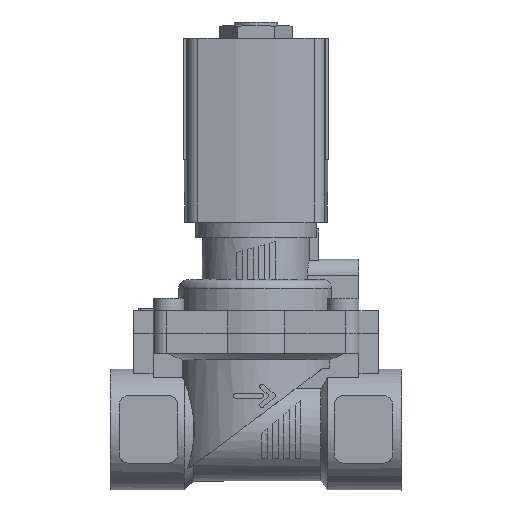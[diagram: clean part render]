
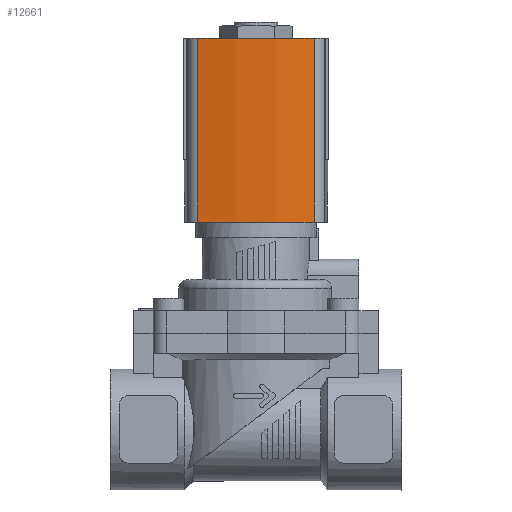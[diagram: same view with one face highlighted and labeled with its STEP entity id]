
A CAD part, top view. The second image highlights one B-rep face of the part: STEP entity #12661.
In plain terms, the highlighted cylindrical face has radius 60 mm (diameter 120 mm), a partial arc.
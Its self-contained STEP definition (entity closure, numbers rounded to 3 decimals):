
#235=CYLINDRICAL_SURFACE('',#13523,60.);
#1230=LINE('',#19382,#2310);
#1231=LINE('',#19386,#2311);
#2310=VECTOR('',#16060,1000.);
#2311=VECTOR('',#16065,1000.);
#4671=ORIENTED_EDGE('',*,*,#6686,.T.);
#4672=ORIENTED_EDGE('',*,*,#6687,.F.);
#4673=ORIENTED_EDGE('',*,*,#5972,.F.);
#4674=ORIENTED_EDGE('',*,*,#6685,.T.);
#5972=EDGE_CURVE('',#7228,#7229,#7959,.T.);
#6685=EDGE_CURVE('',#7228,#7734,#1230,.T.);
#6686=EDGE_CURVE('',#7734,#7735,#8053,.T.);
#6687=EDGE_CURVE('',#7229,#7735,#1231,.T.);
#7228=VERTEX_POINT('',#18036);
#7229=VERTEX_POINT('',#18038);
#7734=VERTEX_POINT('',#19381);
#7735=VERTEX_POINT('',#19385);
#7959=CIRCLE('',#13303,60.);
#8053=CIRCLE('',#13524,60.);
#8478=EDGE_LOOP('',(#4671,#4672,#4673,#4674));
#9058=FACE_BOUND('',#8478,.T.);
#12661=ADVANCED_FACE('',(#9058),#235,.T.);
#13303=AXIS2_PLACEMENT_3D('',#18037,#15001,#15002);
#13523=AXIS2_PLACEMENT_3D('',#19383,#16061,#16062);
#13524=AXIS2_PLACEMENT_3D('',#19384,#16063,#16064);
#15001=DIRECTION('',(0.,1.,0.));
#15002=DIRECTION('',(1.,0.,0.));
#16060=DIRECTION('',(0.,-1.,0.));
#16061=DIRECTION('',(0.,-1.,0.));
#16062=DIRECTION('',(0.,0.,-1.));
#16063=DIRECTION('',(0.,1.,0.));
#16064=DIRECTION('',(1.,0.,0.));
#16065=DIRECTION('',(0.,-1.,0.));
#18036=CARTESIAN_POINT('',(19.078,15.,12.986));
#18037=CARTESIAN_POINT('',(-39.5,15.,0.));
#18038=CARTESIAN_POINT('',(19.078,15.,-12.986));
#19381=CARTESIAN_POINT('',(19.078,-26.,12.986));
#19382=CARTESIAN_POINT('',(19.078,15.,12.986));
#19383=CARTESIAN_POINT('',(-39.5,15.,0.));
#19384=CARTESIAN_POINT('',(-39.5,-26.,0.));
#19385=CARTESIAN_POINT('',(19.078,-26.,-12.986));
#19386=CARTESIAN_POINT('',(19.078,15.,-12.986));
